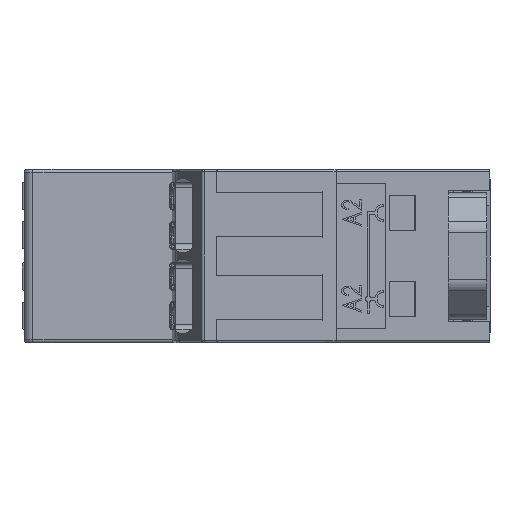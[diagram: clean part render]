
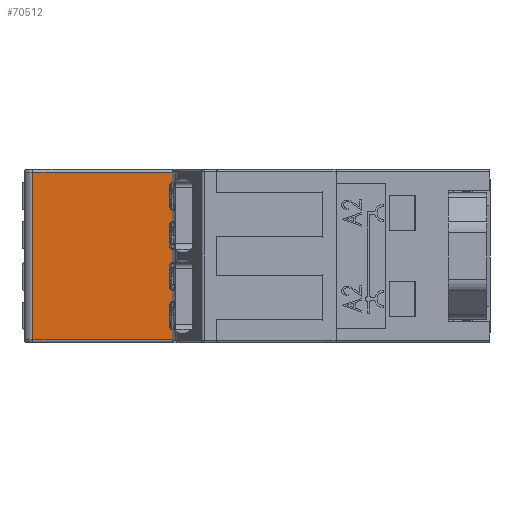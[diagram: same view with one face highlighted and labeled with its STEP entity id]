
A CAD part, left-side view. The second image highlights one B-rep face of the part: STEP entity #70512.
In plain terms, the highlighted planar face has unit normal (-1, 0, 0).
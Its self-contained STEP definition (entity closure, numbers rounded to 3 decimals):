
#1488 = EDGE_CURVE ( 'NONE', #79526, #107787, #24525, .T. ) ;
#2429 = CARTESIAN_POINT ( 'NONE',  ( 54.8, 29., 0.575 ) ) ;
#4954 = VECTOR ( 'NONE', #24336, 1000. ) ;
#5157 = EDGE_CURVE ( 'NONE', #73505, #7912, #43261, .T. ) ;
#5518 = DIRECTION ( 'NONE',  ( 1., 0., 0. ) ) ;
#5697 = LINE ( 'NONE', #2429, #69767 ) ;
#7529 = CARTESIAN_POINT ( 'NONE',  ( 54.8, 29., 14.875 ) ) ;
#7912 = VERTEX_POINT ( 'NONE', #47665 ) ;
#8288 = DIRECTION ( 'NONE',  ( 0., 0., -1. ) ) ;
#8589 = CARTESIAN_POINT ( 'NONE',  ( 54.8, 29., 13.075 ) ) ;
#9663 = CARTESIAN_POINT ( 'NONE',  ( 54.8, 22.1, 14.575 ) ) ;
#10102 = ORIENTED_EDGE ( 'NONE', *, *, #93575, .T. ) ;
#11759 = VECTOR ( 'NONE', #8288, 1000. ) ;
#12074 = VECTOR ( 'NONE', #43924, 1000. ) ;
#13376 = DIRECTION ( 'NONE',  ( 1., 0., 0. ) ) ;
#14383 = LINE ( 'NONE', #58311, #11759 ) ;
#14654 = EDGE_CURVE ( 'NONE', #82762, #72116, #38726, .T. ) ;
#14672 = CARTESIAN_POINT ( 'NONE',  ( 54.8, 41.7, 14.575 ) ) ;
#16268 = EDGE_CURVE ( 'NONE', #80808, #93081, #14383, .T. ) ;
#16547 = VECTOR ( 'NONE', #19927, 1000. ) ;
#18512 = LINE ( 'NONE', #70915, #102165 ) ;
#19927 = DIRECTION ( 'NONE',  ( 0., 0., -1. ) ) ;
#21183 = ORIENTED_EDGE ( 'NONE', *, *, #65031, .T. ) ;
#24336 = DIRECTION ( 'NONE',  ( 0., 1., 0. ) ) ;
#24525 = LINE ( 'NONE', #66010, #4954 ) ;
#31406 = VECTOR ( 'NONE', #68797, 1000. ) ;
#37588 = DIRECTION ( 'NONE',  ( 0., -1., 0. ) ) ;
#38159 = CARTESIAN_POINT ( 'NONE',  ( 54.8, 28.75, 13.325 ) ) ;
#38726 = LINE ( 'NONE', #103220, #16547 ) ;
#39466 = ORIENTED_EDGE ( 'NONE', *, *, #5157, .F. ) ;
#40441 = ORIENTED_EDGE ( 'NONE', *, *, #14654, .T. ) ;
#42677 = AXIS2_PLACEMENT_3D ( 'NONE', #55529, #5518, #63937 ) ;
#42984 = CARTESIAN_POINT ( 'NONE',  ( 54.8, 28.75, 0.575 ) ) ;
#43261 = LINE ( 'NONE', #99667, #90317 ) ;
#43924 = DIRECTION ( 'NONE',  ( 0., 1., 0. ) ) ;
#44614 = CARTESIAN_POINT ( 'NONE',  ( 54.8, 22.1, 0.575 ) ) ;
#46311 = ORIENTED_EDGE ( 'NONE', *, *, #94790, .T. ) ;
#47665 = CARTESIAN_POINT ( 'NONE',  ( 54.8, 22.1, -0.675 ) ) ;
#49619 = DIRECTION ( 'NONE',  ( 0., 0., -1. ) ) ;
#53073 = CARTESIAN_POINT ( 'NONE',  ( 54.8, 41.7, -0.675 ) ) ;
#53133 = ORIENTED_EDGE ( 'NONE', *, *, #80041, .T. ) ;
#54252 = EDGE_CURVE ( 'NONE', #99190, #73505, #5697, .T. ) ;
#55529 = CARTESIAN_POINT ( 'NONE',  ( 54.8, 28.75, 0.825 ) ) ;
#57896 = DIRECTION ( 'NONE',  ( 0., 0., -1. ) ) ;
#58311 = CARTESIAN_POINT ( 'NONE',  ( 54.8, 29., 14.875 ) ) ;
#58880 = LINE ( 'NONE', #85552, #31406 ) ;
#60189 = CARTESIAN_POINT ( 'NONE',  ( 54.8, 22.1, 13.325 ) ) ;
#62271 = CARTESIAN_POINT ( 'NONE',  ( 54.8, 29., 0.825 ) ) ;
#63418 = CARTESIAN_POINT ( 'NONE',  ( 54.8, 28.75, 13.075 ) ) ;
#63937 = DIRECTION ( 'NONE',  ( 0., 0., -1. ) ) ;
#65031 = EDGE_CURVE ( 'NONE', #79526, #105773, #58880, .T. ) ;
#66010 = CARTESIAN_POINT ( 'NONE',  ( 54.8, 29., 13.325 ) ) ;
#66720 = CIRCLE ( 'NONE', #42677, 0.25 ) ;
#68797 = DIRECTION ( 'NONE',  ( 0., 0., 1. ) ) ;
#69632 = DIRECTION ( 'NONE',  ( 0., -1., 0. ) ) ;
#69767 = VECTOR ( 'NONE', #69632, 1000. ) ;
#70342 = EDGE_CURVE ( 'NONE', #80808, #107787, #91412, .T. ) ;
#70512 = ADVANCED_FACE ( 'NONE', ( #92641 ), #99553, .F. ) ;
#70915 = CARTESIAN_POINT ( 'NONE',  ( 54.8, 21.95, -0.675 ) ) ;
#71892 = DIRECTION ( 'NONE',  ( 0., 0., -1. ) ) ;
#72116 = VERTEX_POINT ( 'NONE', #53073 ) ;
#73505 = VERTEX_POINT ( 'NONE', #44614 ) ;
#73613 = ORIENTED_EDGE ( 'NONE', *, *, #54252, .F. ) ;
#77582 = CARTESIAN_POINT ( 'NONE',  ( 54.8, 29., 14.575 ) ) ;
#79526 = VERTEX_POINT ( 'NONE', #60189 ) ;
#80041 = EDGE_CURVE ( 'NONE', #72116, #7912, #18512, .T. ) ;
#80808 = VERTEX_POINT ( 'NONE', #8589 ) ;
#81371 = LINE ( 'NONE', #77582, #12074 ) ;
#81990 = ORIENTED_EDGE ( 'NONE', *, *, #70342, .T. ) ;
#82762 = VERTEX_POINT ( 'NONE', #14672 ) ;
#85552 = CARTESIAN_POINT ( 'NONE',  ( 54.8, 22.1, 13.325 ) ) ;
#88234 = ORIENTED_EDGE ( 'NONE', *, *, #1488, .F. ) ;
#90317 = VECTOR ( 'NONE', #49619, 1000. ) ;
#91412 = CIRCLE ( 'NONE', #107532, 0.25 ) ;
#92641 = FACE_OUTER_BOUND ( 'NONE', #97035, .T. ) ;
#93081 = VERTEX_POINT ( 'NONE', #62271 ) ;
#93575 = EDGE_CURVE ( 'NONE', #105773, #82762, #81371, .T. ) ;
#94227 = AXIS2_PLACEMENT_3D ( 'NONE', #7529, #107950, #57896 ) ;
#94790 = EDGE_CURVE ( 'NONE', #99190, #93081, #66720, .T. ) ;
#97035 = EDGE_LOOP ( 'NONE', ( #40441, #53133, #39466, #73613, #46311, #103811, #81990, #88234, #21183, #10102 ) ) ;
#99190 = VERTEX_POINT ( 'NONE', #42984 ) ;
#99553 = PLANE ( 'NONE',  #94227 ) ;
#99667 = CARTESIAN_POINT ( 'NONE',  ( 54.8, 22.1, 0.575 ) ) ;
#102165 = VECTOR ( 'NONE', #37588, 1000. ) ;
#103220 = CARTESIAN_POINT ( 'NONE',  ( 54.8, 41.7, -0.975 ) ) ;
#103811 = ORIENTED_EDGE ( 'NONE', *, *, #16268, .F. ) ;
#105773 = VERTEX_POINT ( 'NONE', #9663 ) ;
#107532 = AXIS2_PLACEMENT_3D ( 'NONE', #63418, #13376, #71892 ) ;
#107787 = VERTEX_POINT ( 'NONE', #38159 ) ;
#107950 = DIRECTION ( 'NONE',  ( 1., 0., 0. ) ) ;
